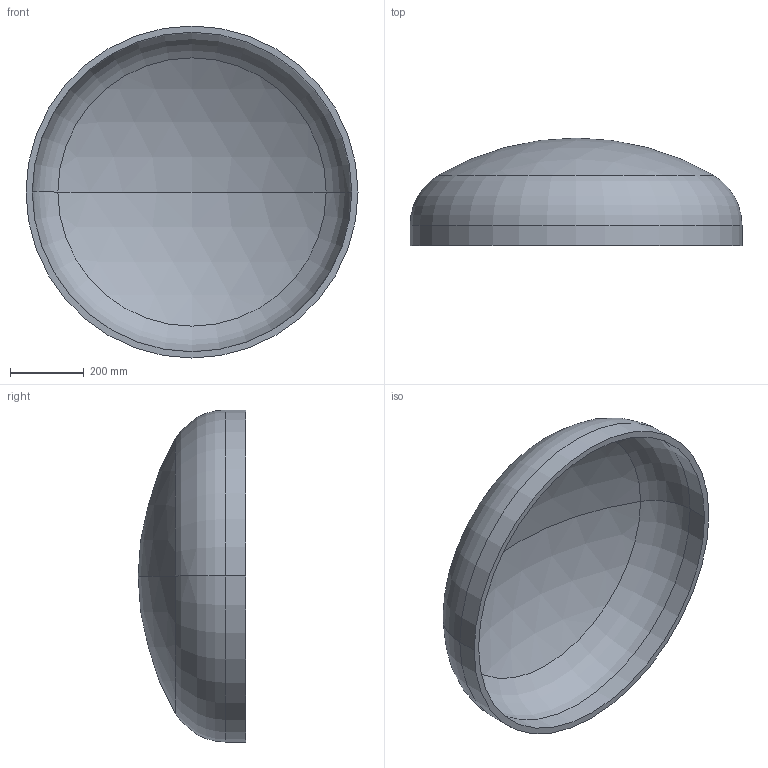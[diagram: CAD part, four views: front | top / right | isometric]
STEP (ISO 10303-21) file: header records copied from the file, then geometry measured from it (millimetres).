
FILE_DESCRIPTION (( 'STEP AP203' ), '1' );
FILE_NAME ('DIN 28013 Korbbogenform_-_Boden DIN 28013 - 900 x 55 - I - s=17.step', '2016-07-01T08:26:59', ( '' ), ( '' ), 'SwSTEP 2.0', 'SolidWorks 2013', '' );
FILE_SCHEMA (( 'CONFIG_CONTROL_DESIGN' ));
Length unit declared in the file: millimetre
Products named in the file (1): DIN 28013 Korbbogenform_-_Boden DIN 28013 - 900 x 55 - I - s=17
Bounding box: 900 x 291.45 x 900 mm (x, y, z)
Volume: 17233349.4 mm3; surface area: 2075216 mm2
Topology: 1 solids, 1 shells, 13 faces, 24 edges, 14 vertices
Faces by surface type: torus 4, cylinder 4, sphere 4, plane 1
Entity records: 407 total; most frequent: DIRECTION 72, CARTESIAN_POINT 52, ORIENTED_EDGE 48, AXIS2_PLACEMENT_3D 34, EDGE_CURVE 24, CIRCLE 20, VERTEX_POINT 14, EDGE_LOOP 14
